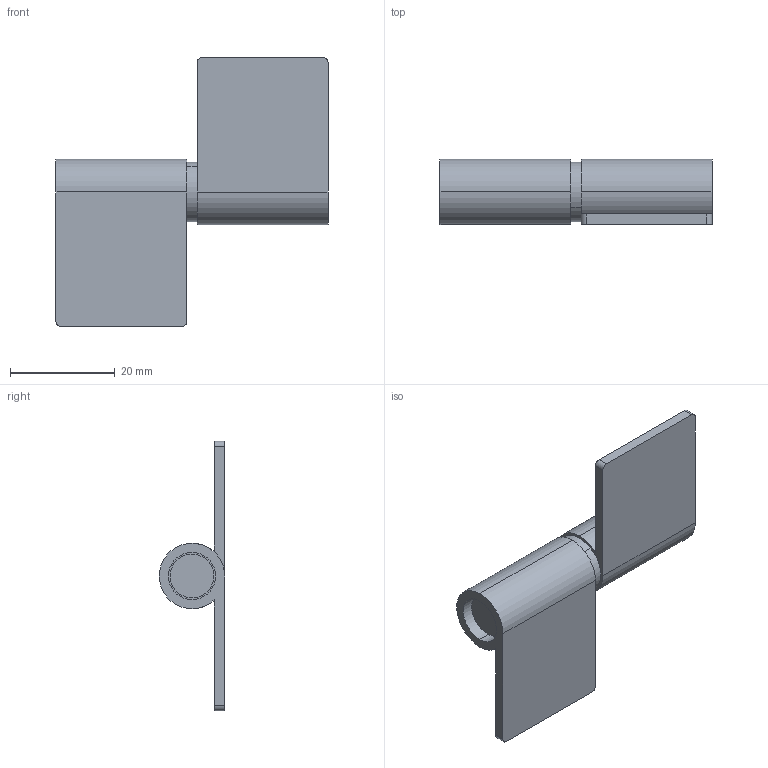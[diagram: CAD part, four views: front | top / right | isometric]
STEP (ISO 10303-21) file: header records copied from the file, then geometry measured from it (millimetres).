
FILE_DESCRIPTION (( 'STEP AP203' ), '1' );
FILE_NAME ('B30-20025.STEP', '2025-03-05T08:23:04', ( '' ), ( '' ), 'SwSTEP 2.0', 'SolidWorks 2021', '' );
FILE_SCHEMA (( 'CONFIG_CONTROL_DESIGN' ));
Length unit declared in the file: millimetre
Products named in the file (3): B30-20025-軸; B30-20025; B30-20025-片
Assembly tree (3 placements, depth 2):
  B30-20025
    B30-20025-片  x2
    B30-20025-軸
Bounding box: 52 x 12.5 x 51.5 mm (x, y, z)
Volume: 7964.9 mm3; surface area: 7467.5 mm2
Topology: 3 solids, 3 shells, 34 faces, 78 edges, 52 vertices
Faces by surface type: cylinder 20, plane 14
Entity records: 959 total; most frequent: DIRECTION 130, CARTESIAN_POINT 108, ORIENTED_EDGE 96, AXIS2_PLACEMENT_3D 54, EDGE_CURVE 48, VERTEX_POINT 32, PERSON_AND_ORGANIZATION 27, EDGE_LOOP 26
